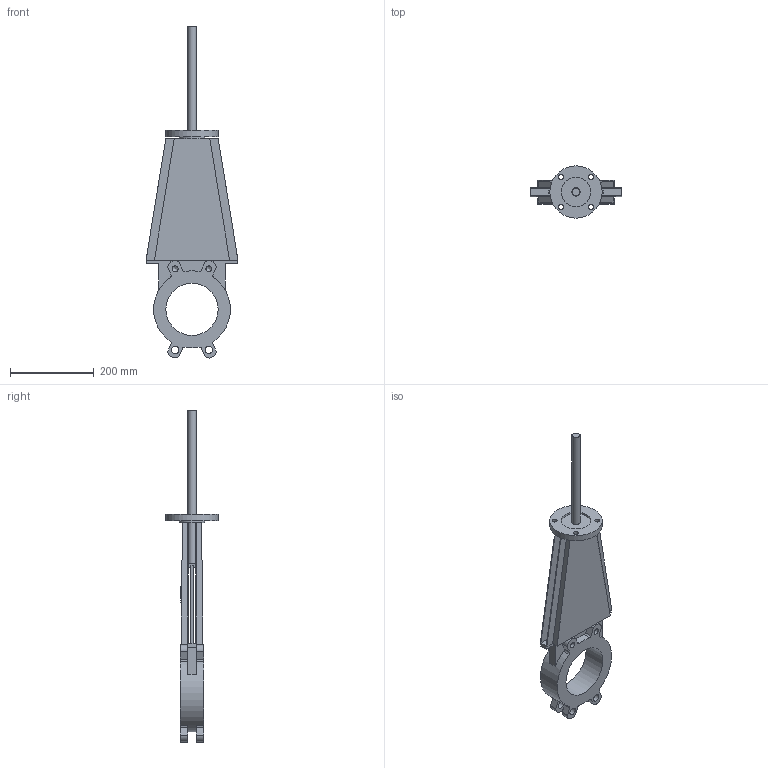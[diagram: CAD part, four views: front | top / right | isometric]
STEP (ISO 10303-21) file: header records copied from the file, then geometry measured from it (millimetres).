
FILE_DESCRIPTION(('STEP AP203'), '1');
FILE_NAME('K21GVA_DN125', '', ('UNSPECIFIED'), ('UNSPECIFIED'), 'ASCON STEP Converter 1.6', 'ASCON Math Kernel', '');
FILE_SCHEMA(('CONFIG_CONTROL_DESIGN'));
Length unit declared in the file: millimetre
Bounding box: 220 x 125 x 794.37 mm (x, y, z)
Volume: 1738322.7 mm3; surface area: 474031 mm2
Topology: 1 solids, 1 shells, 155 faces, 432 edges, 280 vertices
Faces by surface type: plane 100, cylinder 50, cone 5
Full cylindrical faces by diameter (mm): 12 x4, 13.835 x4, 18 x4, 20 x2, 60 x1, 70 x1, 125 x2, 184 x1
Entity records: 6138 total; most frequent: DIRECTION 844, CARTESIAN_POINT 836, ORIENTED_EDGE 808, EDGE_CURVE 404, AXIS2_PLACEMENT_3D 284, VERTEX_POINT 276, LINE 276, VECTOR 276
